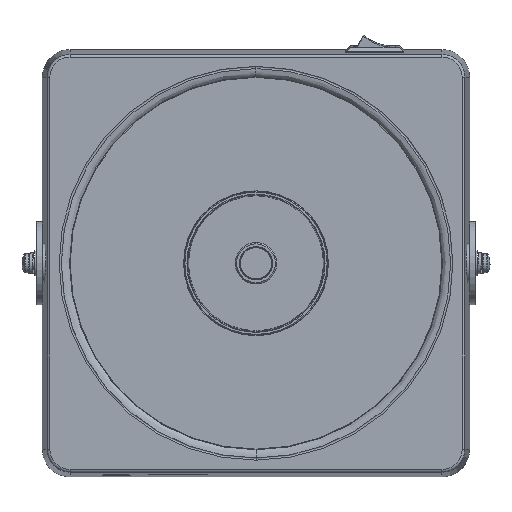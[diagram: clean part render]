
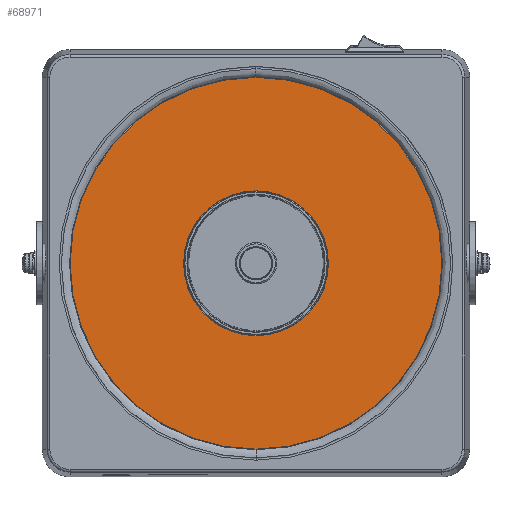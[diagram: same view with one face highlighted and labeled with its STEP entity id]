
A CAD part, front view. The second image highlights one B-rep face of the part: STEP entity #68971.
In plain terms, the highlighted planar face has unit normal (0, -1, 0).
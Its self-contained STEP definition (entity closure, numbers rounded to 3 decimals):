
#22427=CARTESIAN_POINT('',(0.,1.75,0.));
#22428=DIRECTION('',(0.,1.,0.));
#22429=DIRECTION('',(1.,0.,0.));
#22430=AXIS2_PLACEMENT_3D('',#22427,#22428,#22429);
#22435=CARTESIAN_POINT('',(0.,1.75,0.));
#22436=DIRECTION('',(0.,1.,0.));
#22437=DIRECTION('',(-1.,0.,0.));
#22438=AXIS2_PLACEMENT_3D('',#22435,#22436,#22437);
#22443=CARTESIAN_POINT('',(0.,1.75,0.));
#22444=DIRECTION('',(0.,-1.,0.));
#22445=DIRECTION('',(1.,0.,0.));
#22446=AXIS2_PLACEMENT_3D('',#22443,#22444,#22445);
#22451=CARTESIAN_POINT('',(0.,1.75,0.));
#22452=DIRECTION('',(0.,-1.,0.));
#22453=DIRECTION('',(-1.,0.,0.));
#22454=AXIS2_PLACEMENT_3D('',#22451,#22452,#22453);
#43764=CARTESIAN_POINT('',(67.231,1.75,0.));
#43765=CARTESIAN_POINT('',(-67.231,1.75,0.));
#43766=VERTEX_POINT('',#43764);
#43767=VERTEX_POINT('',#43765);
#43768=CARTESIAN_POINT('',(26.169,1.75,0.));
#43769=CARTESIAN_POINT('',(-26.169,1.75,0.));
#43770=VERTEX_POINT('',#43768);
#43771=VERTEX_POINT('',#43769);
#68956=CARTESIAN_POINT('',(0.,1.75,0.));
#68957=DIRECTION('',(0.,1.,0.));
#68958=DIRECTION('',(0.,0.,1.));
#68959=AXIS2_PLACEMENT_3D('',#68956,#68957,#68958);
#68960=PLANE('',#68959);
#68961=ORIENTED_EDGE('',*,*,#68922,.T.);
#68962=ORIENTED_EDGE('',*,*,#68943,.T.);
#68963=EDGE_LOOP('',(#68961,#68962));
#68964=FACE_OUTER_BOUND('',#68963,.F.);
#68966=ORIENTED_EDGE('',*,*,#68965,.T.);
#68968=ORIENTED_EDGE('',*,*,#68967,.T.);
#68969=EDGE_LOOP('',(#68966,#68968));
#68970=FACE_BOUND('',#68969,.F.);
#68971=ADVANCED_FACE('',(#68964,#68970),#68960,.F.);
#22431=CIRCLE('',#22430,67.231);
#22439=CIRCLE('',#22438,67.231);
#22447=CIRCLE('',#22446,26.169);
#22455=CIRCLE('',#22454,26.169);
#68922=EDGE_CURVE('',#43766,#43767,#22431,.T.);
#68943=EDGE_CURVE('',#43767,#43766,#22439,.T.);
#68965=EDGE_CURVE('',#43770,#43771,#22447,.T.);
#68967=EDGE_CURVE('',#43771,#43770,#22455,.T.);
